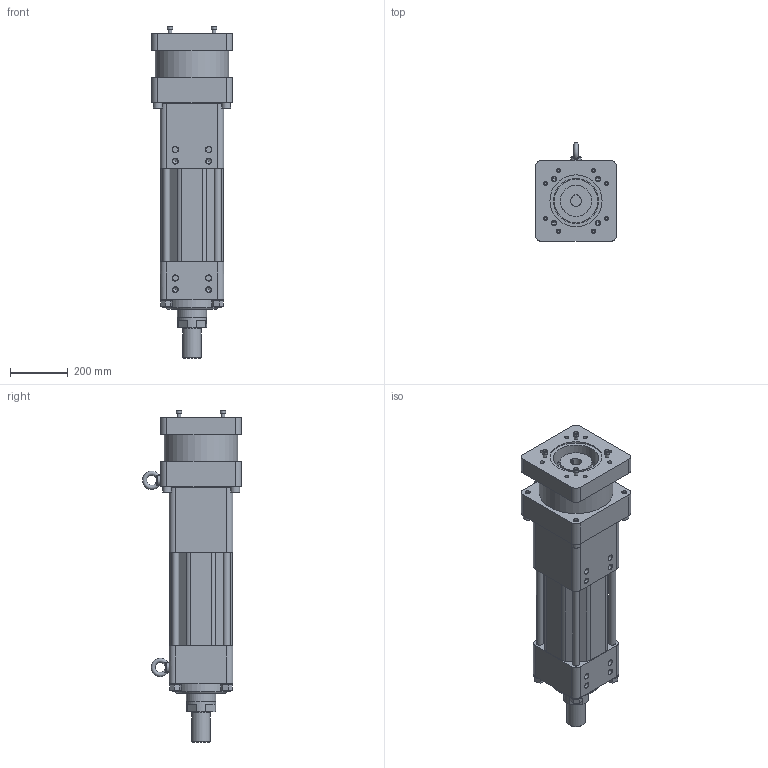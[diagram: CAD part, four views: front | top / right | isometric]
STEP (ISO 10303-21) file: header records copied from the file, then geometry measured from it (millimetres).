
FILE_DESCRIPTION (( 'STEP AP203' ), '1' );
FILE_NAME ('RSX25_RN10_SM75.000_RS-491606-1.step', '2025-06-26T15:59:27', ( '' ), ( '' ), 'SwSTEP 2.0', 'SolidWorks 2024', '' );
FILE_SCHEMA (( 'CONFIG_CONTROL_DESIGN' ));
Length unit declared in the file: inch
Products named in the file (3): tempJoin0_21729007_RSX25_RN10_SM75.000_RS-491606-1; RSX25_RN10_SM75.000_RS-491606-1; Base_RSX25_RN10_SM75.000_RS-491606-1
Assembly tree (2 placements, depth 2):
  RSX25_RN10_SM75.000_RS-491606-1
    tempJoin0_21729007_RSX25_RN10_SM75.000_RS-491606-1
    Base_RSX25_RN10_SM75.000_RS-491606-1
Bounding box: 279.4 x 341.87 x 1147.03 mm (x, y, z)
Volume: 41404937.2 mm3; surface area: 2524858.3 mm2
Topology: 2 solids, 75 shells, 1547 faces, 3576 edges, 2328 vertices
Faces by surface type: plane 940, cylinder 352, cone 130, bspline 106, torus 18, sphere 1
Full cylindrical faces by diameter (mm): 3.175 x2, 6.35 x1, 7 x6, 7.937 x4, 7.938 x4, 8 x26, 8.33 x6, 8.74 x20, 10 x2, 10.005 x2, 10.013 x2, 10.201 x4, 10.7 x1, 11.999 x4, 12 x4, 13 x26, 13.487 x6, 13.9 x2, 14 x4, 14.3 x26, 17 x4, 17.5 x4, 17.519 x4, 18 x4, 20 x4, 20.013 x4, 20.75 x8, 21.5 x4, 22 x4, 23.812 x3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
Entity records: 43755 total; most frequent: CARTESIAN_POINT 11055, DIRECTION 6570, ORIENTED_EDGE 5946, EDGE_CURVE 2973, AXIS2_PLACEMENT_3D 2407, EDGE_LOOP 2212, VERTEX_POINT 2139, FACE_OUTER_BOUND 1829
